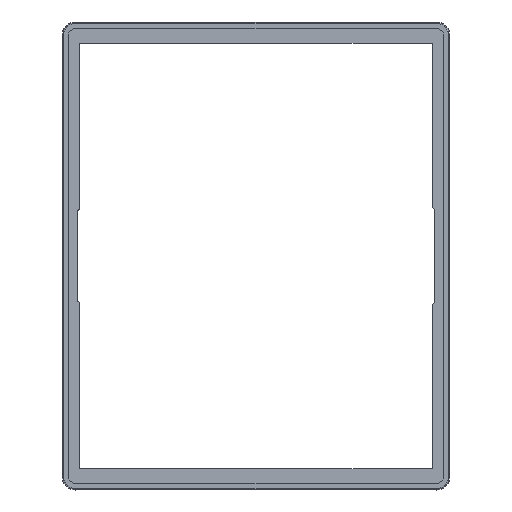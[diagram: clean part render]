
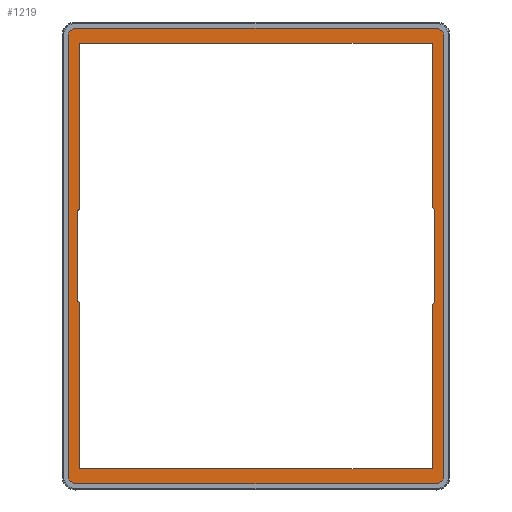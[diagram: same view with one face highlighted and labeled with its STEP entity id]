
A CAD part, top view. The second image highlights one B-rep face of the part: STEP entity #1219.
In plain terms, the highlighted planar face has unit normal (0, 0, 1).
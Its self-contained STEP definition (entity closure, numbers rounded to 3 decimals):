
#460=FACE_BOUND('',#5664,.T.);
#461=FACE_BOUND('',#5665,.T.);
#592=CIRCLE('',#31047,5.924);
#593=CIRCLE('',#31048,5.924);
#594=CIRCLE('',#31049,5.924);
#595=CIRCLE('',#31050,5.924);
#596=CIRCLE('',#31051,5.02);
#597=CIRCLE('',#31052,5.02);
#598=CIRCLE('',#31053,1.506);
#599=CIRCLE('',#31054,1.506);
#1219=ADVANCED_FACE('',(#460,#461),#2784,.F.);
#2784=PLANE('',#31055);
#5664=EDGE_LOOP('',(#7927,#7928,#7929,#7930,#7931,#7932,#7933,#7934));
#5665=EDGE_LOOP('',(#7935,#7936,#7937,#7938,#7939,#7940,#7941,#7942,#7943,
#7944,#7945,#7946));
#7927=ORIENTED_EDGE('',*,*,#19793,.T.);
#7928=ORIENTED_EDGE('',*,*,#19794,.F.);
#7929=ORIENTED_EDGE('',*,*,#19795,.T.);
#7930=ORIENTED_EDGE('',*,*,#19792,.F.);
#7931=ORIENTED_EDGE('',*,*,#19796,.T.);
#7932=ORIENTED_EDGE('',*,*,#19797,.F.);
#7933=ORIENTED_EDGE('',*,*,#19798,.T.);
#7934=ORIENTED_EDGE('',*,*,#19799,.F.);
#7935=ORIENTED_EDGE('',*,*,#19800,.T.);
#7936=ORIENTED_EDGE('',*,*,#19801,.T.);
#7937=ORIENTED_EDGE('',*,*,#19802,.T.);
#7938=ORIENTED_EDGE('',*,*,#19803,.T.);
#7939=ORIENTED_EDGE('',*,*,#19804,.T.);
#7940=ORIENTED_EDGE('',*,*,#19805,.T.);
#7941=ORIENTED_EDGE('',*,*,#19806,.T.);
#7942=ORIENTED_EDGE('',*,*,#19807,.T.);
#7943=ORIENTED_EDGE('',*,*,#19808,.T.);
#7944=ORIENTED_EDGE('',*,*,#19809,.T.);
#7945=ORIENTED_EDGE('',*,*,#19810,.F.);
#7946=ORIENTED_EDGE('',*,*,#19811,.T.);
#16786=VERTEX_POINT('',#42600);
#16787=VERTEX_POINT('',#42602);
#16788=VERTEX_POINT('',#42606);
#16789=VERTEX_POINT('',#42607);
#16790=VERTEX_POINT('',#42609);
#16791=VERTEX_POINT('',#42612);
#16792=VERTEX_POINT('',#42614);
#16793=VERTEX_POINT('',#42616);
#16794=VERTEX_POINT('',#42619);
#16795=VERTEX_POINT('',#42620);
#16796=VERTEX_POINT('',#42622);
#16797=VERTEX_POINT('',#42624);
#16798=VERTEX_POINT('',#42626);
#16799=VERTEX_POINT('',#42628);
#16800=VERTEX_POINT('',#42630);
#16801=VERTEX_POINT('',#42632);
#16802=VERTEX_POINT('',#42634);
#16803=VERTEX_POINT('',#42636);
#16804=VERTEX_POINT('',#42638);
#16805=VERTEX_POINT('',#42640);
#19792=EDGE_CURVE('',#16787,#16786,#24200,.T.);
#19793=EDGE_CURVE('',#16788,#16789,#592,.T.);
#19794=EDGE_CURVE('',#16790,#16789,#24201,.T.);
#19795=EDGE_CURVE('',#16790,#16786,#593,.T.);
#19796=EDGE_CURVE('',#16787,#16791,#594,.T.);
#19797=EDGE_CURVE('',#16792,#16791,#24202,.T.);
#19798=EDGE_CURVE('',#16792,#16793,#595,.T.);
#19799=EDGE_CURVE('',#16788,#16793,#24203,.T.);
#19800=EDGE_CURVE('',#16794,#16795,#24204,.T.);
#19801=EDGE_CURVE('',#16795,#16796,#24205,.T.);
#19802=EDGE_CURVE('',#16796,#16797,#24206,.T.);
#19803=EDGE_CURVE('',#16797,#16798,#596,.T.);
#19804=EDGE_CURVE('',#16798,#16799,#24207,.T.);
#19805=EDGE_CURVE('',#16799,#16800,#597,.T.);
#19806=EDGE_CURVE('',#16800,#16801,#24208,.T.);
#19807=EDGE_CURVE('',#16801,#16802,#24209,.T.);
#19808=EDGE_CURVE('',#16802,#16803,#24210,.T.);
#19809=EDGE_CURVE('',#16803,#16804,#598,.T.);
#19810=EDGE_CURVE('',#16805,#16804,#24211,.T.);
#19811=EDGE_CURVE('',#16805,#16794,#599,.T.);
#24200=LINE('',#42603,#27847);
#24201=LINE('',#42608,#27848);
#24202=LINE('',#42613,#27849);
#24203=LINE('',#42617,#27850);
#24204=LINE('',#42618,#27851);
#24205=LINE('',#42621,#27852);
#24206=LINE('',#42623,#27853);
#24207=LINE('',#42627,#27854);
#24208=LINE('',#42631,#27855);
#24209=LINE('',#42633,#27856);
#24210=LINE('',#42635,#27857);
#24211=LINE('',#42639,#27858);
#27847=VECTOR('',#33985,1.);
#27848=VECTOR('',#33990,1.);
#27849=VECTOR('',#33995,1.);
#27850=VECTOR('',#33998,1.);
#27851=VECTOR('',#33999,1.);
#27852=VECTOR('',#34000,1.);
#27853=VECTOR('',#34001,1.);
#27854=VECTOR('',#34004,1.);
#27855=VECTOR('',#34007,1.);
#27856=VECTOR('',#34008,1.);
#27857=VECTOR('',#34009,1.);
#27858=VECTOR('',#34012,1.);
#31047=AXIS2_PLACEMENT_3D('',#42605,#33988,#33989);
#31048=AXIS2_PLACEMENT_3D('',#42610,#33991,#33992);
#31049=AXIS2_PLACEMENT_3D('',#42611,#33993,#33994);
#31050=AXIS2_PLACEMENT_3D('',#42615,#33996,#33997);
#31051=AXIS2_PLACEMENT_3D('',#42625,#34002,#34003);
#31052=AXIS2_PLACEMENT_3D('',#42629,#34005,#34006);
#31053=AXIS2_PLACEMENT_3D('',#42637,#34010,#34011);
#31054=AXIS2_PLACEMENT_3D('',#42641,#34013,#34014);
#31055=AXIS2_PLACEMENT_3D('',#42642,#34015,#34016);
#33985=DIRECTION('',(1.,0.,0.));
#33988=DIRECTION('',(0.,0.,1.));
#33989=DIRECTION('',(0.,-1.,0.));
#33990=DIRECTION('',(0.,-1.,0.));
#33991=DIRECTION('',(0.,0.,1.));
#33992=DIRECTION('',(1.,0.,0.));
#33993=DIRECTION('',(0.,0.,1.));
#33994=DIRECTION('',(0.,1.,0.));
#33995=DIRECTION('',(0.,1.,0.));
#33996=DIRECTION('',(0.,0.,1.));
#33997=DIRECTION('',(-1.,0.,0.));
#33998=DIRECTION('',(-1.,0.,0.));
#33999=DIRECTION('',(0.,1.,0.));
#34000=DIRECTION('',(1.,0.,0.));
#34001=DIRECTION('',(0.,-1.,0.));
#34002=DIRECTION('',(0.,0.,1.));
#34003=DIRECTION('',(-1.,0.,0.));
#34004=DIRECTION('',(0.,-1.,0.));
#34005=DIRECTION('',(0.,0.,1.));
#34006=DIRECTION('',(1.,0.,0.));
#34007=DIRECTION('',(0.,-1.,0.));
#34008=DIRECTION('',(-1.,0.,0.));
#34009=DIRECTION('',(0.,1.,0.));
#34010=DIRECTION('',(0.,0.,1.));
#34011=DIRECTION('',(-1.,0.,0.));
#34012=DIRECTION('',(0.,-1.,0.));
#34013=DIRECTION('',(0.,0.,1.));
#34014=DIRECTION('',(1.,0.,0.));
#34015=DIRECTION('',(0.,0.,-1.));
#34016=DIRECTION('',(0.,1.,0.));
#42600=CARTESIAN_POINT('',(152.128,191.903,16.195));
#42602=CARTESIAN_POINT('',(-152.128,191.903,16.195));
#42603=CARTESIAN_POINT('',(-152.128,191.903,16.195));
#42605=CARTESIAN_POINT('',(152.128,-185.979,16.195));
#42606=CARTESIAN_POINT('',(152.128,-191.903,16.195));
#42607=CARTESIAN_POINT('',(158.052,-185.979,16.195));
#42608=CARTESIAN_POINT('',(158.052,185.979,16.195));
#42609=CARTESIAN_POINT('',(158.052,185.979,16.195));
#42610=CARTESIAN_POINT('',(152.128,185.979,16.195));
#42611=CARTESIAN_POINT('',(-152.128,185.979,16.195));
#42612=CARTESIAN_POINT('',(-158.052,185.979,16.195));
#42613=CARTESIAN_POINT('',(-158.052,-185.979,16.195));
#42614=CARTESIAN_POINT('',(-158.052,-185.979,16.195));
#42615=CARTESIAN_POINT('',(-152.128,-185.979,16.195));
#42616=CARTESIAN_POINT('',(-152.128,-191.903,16.195));
#42617=CARTESIAN_POINT('',(152.128,-191.903,16.195));
#42618=CARTESIAN_POINT('',(-148.996,40.16,16.195));
#42619=CARTESIAN_POINT('',(-148.996,40.16,16.195));
#42620=CARTESIAN_POINT('',(-148.996,179.403,16.195));
#42621=CARTESIAN_POINT('',(-148.996,179.403,16.195));
#42622=CARTESIAN_POINT('',(148.571,179.403,16.195));
#42623=CARTESIAN_POINT('',(148.571,179.403,16.195));
#42624=CARTESIAN_POINT('',(148.571,43.172,16.195));
#42625=CARTESIAN_POINT('',(153.592,43.172,16.195));
#42626=CARTESIAN_POINT('',(150.481,39.231,16.195));
#42627=CARTESIAN_POINT('',(150.481,106.078,16.195));
#42628=CARTESIAN_POINT('',(150.481,-39.231,16.195));
#42629=CARTESIAN_POINT('',(153.592,-43.172,16.195));
#42630=CARTESIAN_POINT('',(148.571,-43.172,16.195));
#42631=CARTESIAN_POINT('',(148.571,-43.172,16.195));
#42632=CARTESIAN_POINT('',(148.571,-179.403,16.195));
#42633=CARTESIAN_POINT('',(145.421,-179.403,16.195));
#42634=CARTESIAN_POINT('',(-148.996,-179.403,16.195));
#42635=CARTESIAN_POINT('',(-148.996,-179.403,16.195));
#42636=CARTESIAN_POINT('',(-148.996,-39.658,16.195));
#42637=CARTESIAN_POINT('',(-150.502,-39.658,16.195));
#42638=CARTESIAN_POINT('',(-150.481,-38.152,16.195));
#42639=CARTESIAN_POINT('',(-150.481,106.078,16.195));
#42640=CARTESIAN_POINT('',(-150.481,38.654,16.195));
#42641=CARTESIAN_POINT('',(-150.502,40.16,16.195));
#42642=CARTESIAN_POINT('',(-152.128,-224.132,16.195));
